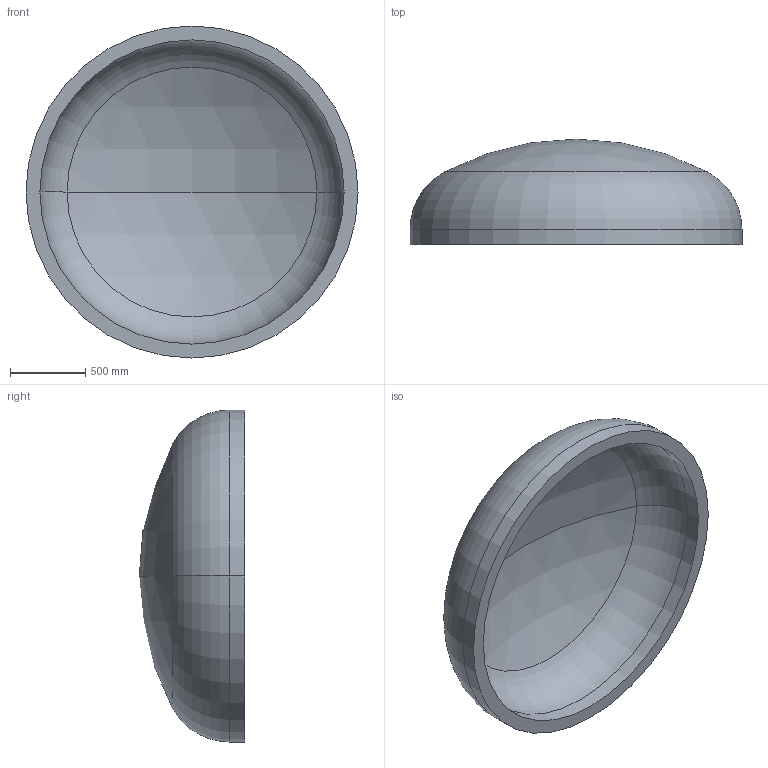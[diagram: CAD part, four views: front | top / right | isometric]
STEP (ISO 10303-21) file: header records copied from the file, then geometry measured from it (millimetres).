
FILE_DESCRIPTION (( 'STEP AP203' ), '1' );
FILE_NAME ('DIN 28013 Korbbogenform_-_Boden DIN 28013 - 2200 x 100 - I - s=92.step', '2016-07-01T14:51:49', ( '' ), ( '' ), 'SwSTEP 2.0', 'SolidWorks 2013', '' );
FILE_SCHEMA (( 'CONFIG_CONTROL_DESIGN' ));
Length unit declared in the file: millimetre
Products named in the file (1): DIN 28013 Korbbogenform_-_Boden DIN 28013 - 2200 x 100 - I - s=92
Bounding box: 2200 x 698.93 x 2200 mm (x, y, z)
Volume: 520108747 mm3; surface area: 11933703.5 mm2
Topology: 1 solids, 1 shells, 13 faces, 24 edges, 14 vertices
Faces by surface type: torus 4, cylinder 4, sphere 4, plane 1
Entity records: 407 total; most frequent: DIRECTION 72, CARTESIAN_POINT 52, ORIENTED_EDGE 48, AXIS2_PLACEMENT_3D 34, EDGE_CURVE 24, CIRCLE 20, EDGE_LOOP 14, VERTEX_POINT 14
